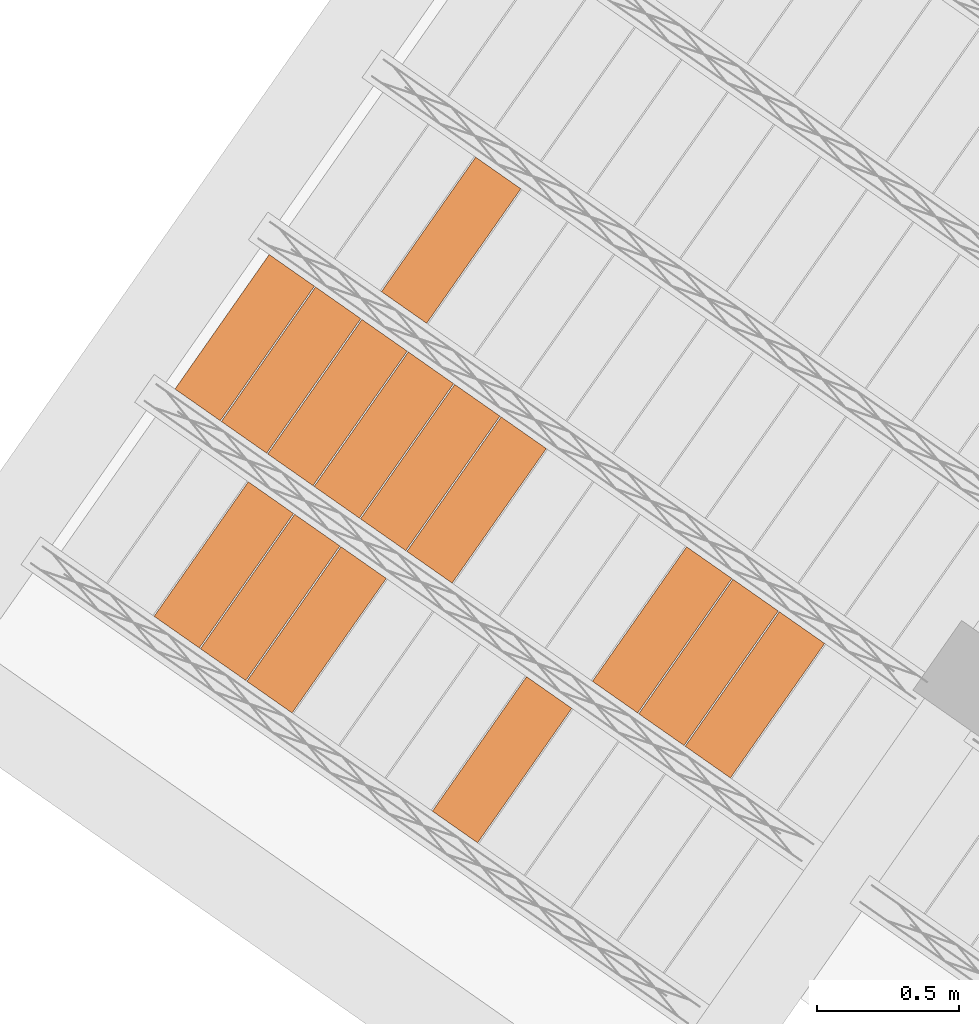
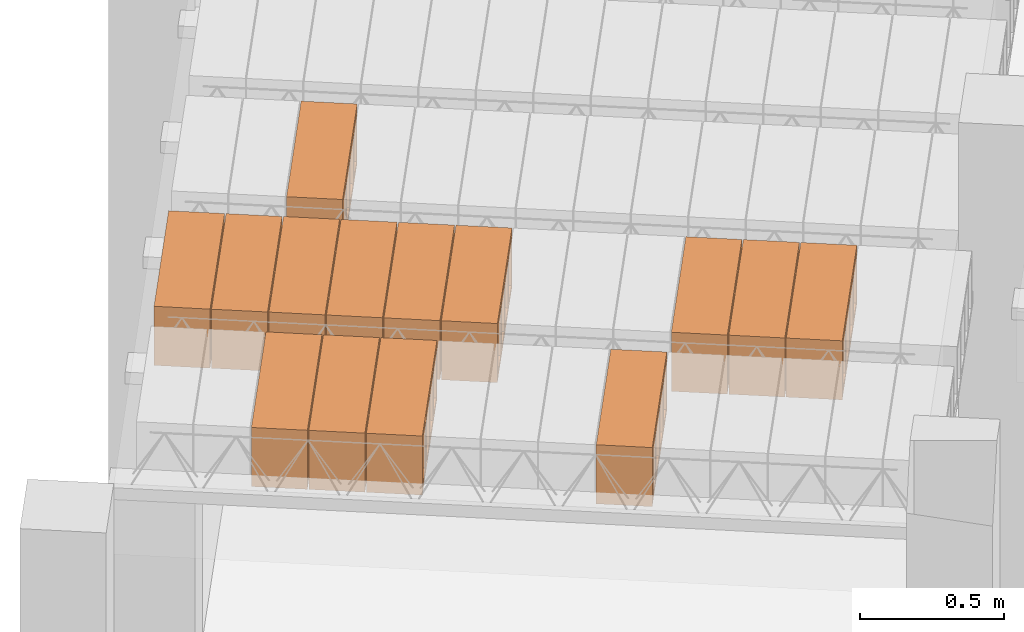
# One storey, part 57 of 80: 14 proxies.
"""IFC2X3 building model written with IfcOpenShell, lengths in metres."""

from ifc_helpers import new_model, entity, si_unit, converted_unit, derived_unit, direction, frame, origin, place, context, subcontext, project, spatial, polyline, outline, extrude, type_object, element, save


model = new_model("IFC2X3")

# Units and contexts
model_context = context("Model", 3, precision=1e-05, world=origin(), true_north=direction((6.123031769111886e-17, 1.0)))
body_context = subcontext(model_context, "Body", "Model", "MODEL_VIEW")
ifc_project = project(units=[si_unit("LENGTHUNIT", "METRE"), si_unit("AREAUNIT", "SQUARE_METRE"), si_unit("VOLUMEUNIT", "CUBIC_METRE"), converted_unit("PLANEANGLEUNIT", "DEGREE", entity("IfcPlaneAngleMeasure", 0.017453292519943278), si_unit("PLANEANGLEUNIT", "RADIAN"), dimensions=[0, 0, 0, 0, 0, 0, 0]), si_unit("MASSUNIT", "GRAM", prefix="KILO"), derived_unit("MASSDENSITYUNIT", [(si_unit("MASSUNIT", "GRAM", prefix="KILO"), 1), (si_unit("LENGTHUNIT", "METRE"), -3)]), derived_unit("IONCONCENTRATIONUNIT", [(si_unit("MASSUNIT", "GRAM", prefix="KILO"), 1), (si_unit("LENGTHUNIT", "METRE"), -3)]), derived_unit("MOMENTOFINERTIAUNIT", [(si_unit("LENGTHUNIT", "METRE"), 4)]), si_unit("TIMEUNIT", "SECOND"), si_unit("FREQUENCYUNIT", "HERTZ"), si_unit("THERMODYNAMICTEMPERATUREUNIT", "DEGREE_CELSIUS"), derived_unit("THERMALTRANSMITTANCEUNIT", [(si_unit("MASSUNIT", "GRAM", prefix="KILO"), 1), (si_unit("THERMODYNAMICTEMPERATUREUNIT", "KELVIN"), -1), (si_unit("TIMEUNIT", "SECOND"), -3)]), derived_unit("THERMALCONDUCTANCEUNIT", [(si_unit("MASSUNIT", "GRAM", prefix="KILO"), 1), (si_unit("THERMODYNAMICTEMPERATUREUNIT", "KELVIN"), -1), (si_unit("TIMEUNIT", "SECOND"), -3), (si_unit("LENGTHUNIT", "METRE"), 1)]), derived_unit("VOLUMETRICFLOWRATEUNIT", [(si_unit("LENGTHUNIT", "METRE", prefix="DECI"), 3), (si_unit("TIMEUNIT", "SECOND"), -1)]), derived_unit("MASSFLOWRATEUNIT", [(si_unit("MASSUNIT", "GRAM", prefix="KILO"), 1), (si_unit("TIMEUNIT", "SECOND"), -1)]), derived_unit("ROTATIONALFREQUENCYUNIT", [(si_unit("TIMEUNIT", "SECOND"), -1)]), si_unit("ELECTRICCURRENTUNIT", "AMPERE"), si_unit("ELECTRICVOLTAGEUNIT", "VOLT"), si_unit("POWERUNIT", "WATT"), si_unit("FORCEUNIT", "NEWTON", prefix="KILO"), si_unit("ILLUMINANCEUNIT", "LUX"), si_unit("LUMINOUSFLUXUNIT", "LUMEN"), si_unit("LUMINOUSINTENSITYUNIT", "CANDELA"), si_unit("ENERGYUNIT", "JOULE"), derived_unit("USERDEFINED", [(si_unit("MASSUNIT", "GRAM", prefix="KILO"), -1), (si_unit("LENGTHUNIT", "METRE"), -2), (si_unit("TIMEUNIT", "SECOND"), 3), (si_unit("LUMINOUSFLUXUNIT", "LUMEN"), 1)]), derived_unit("USERDEFINED", [(si_unit("MASSUNIT", "GRAM", prefix="KILO"), 1), (si_unit("TIMEUNIT", "SECOND"), -3), (si_unit("LENGTHUNIT", "METRE"), 3), (si_unit("ELECTRICCURRENTUNIT", "AMPERE"), -2)]), derived_unit("SOUNDPOWERUNIT", [(si_unit("MASSUNIT", "GRAM", prefix="KILO"), 1), (si_unit("TIMEUNIT", "SECOND"), -3), (si_unit("LENGTHUNIT", "METRE"), 2)]), derived_unit("SOUNDPRESSUREUNIT", [(si_unit("MASSUNIT", "GRAM", prefix="KILO"), 1), (si_unit("LENGTHUNIT", "METRE"), -1), (si_unit("TIMEUNIT", "SECOND"), -2)]), derived_unit("LINEARVELOCITYUNIT", [(si_unit("LENGTHUNIT", "METRE"), 1), (si_unit("TIMEUNIT", "SECOND"), -1)]), si_unit("PRESSUREUNIT", "PASCAL"), derived_unit("USERDEFINED", [(si_unit("MASSUNIT", "GRAM", prefix="KILO"), 1), (si_unit("LENGTHUNIT", "METRE"), -2), (si_unit("TIMEUNIT", "SECOND"), -2)]), derived_unit("LINEARFORCEUNIT", [(si_unit("MASSUNIT", "GRAM", prefix="KILO"), 1), (si_unit("TIMEUNIT", "SECOND"), -2)]), derived_unit("PLANARFORCEUNIT", [(si_unit("MASSUNIT", "GRAM", prefix="KILO"), 1), (si_unit("LENGTHUNIT", "METRE"), -1), (si_unit("TIMEUNIT", "SECOND"), -2)]), derived_unit("SPECIFICHEATCAPACITYUNIT", [(si_unit("THERMODYNAMICTEMPERATUREUNIT", "KELVIN"), -1), (si_unit("LENGTHUNIT", "METRE"), 2), (si_unit("TIMEUNIT", "SECOND"), -2)]), derived_unit("HEATFLUXDENSITYUNIT", [(si_unit("MASSUNIT", "GRAM", prefix="KILO"), 1), (si_unit("TIMEUNIT", "SECOND"), -3)]), derived_unit("HEATINGVALUEUNIT", [(si_unit("LENGTHUNIT", "METRE"), 2), (si_unit("TIMEUNIT", "SECOND"), -2)]), derived_unit("VAPORPERMEABILITYUNIT", [(si_unit("LENGTHUNIT", "METRE"), -1), (si_unit("TIMEUNIT", "SECOND"), 1)]), derived_unit("DYNAMICVISCOSITYUNIT", [(si_unit("MASSUNIT", "GRAM", prefix="KILO"), 1), (si_unit("TIMEUNIT", "SECOND"), -1), (si_unit("LENGTHUNIT", "METRE"), -1)]), derived_unit("THERMALEXPANSIONCOEFFICIENTUNIT", [(si_unit("THERMODYNAMICTEMPERATUREUNIT", "KELVIN"), -1)]), derived_unit("MODULUSOFELASTICITYUNIT", [(si_unit("MASSUNIT", "GRAM", prefix="KILO"), 1), (si_unit("LENGTHUNIT", "METRE"), -1), (si_unit("TIMEUNIT", "SECOND"), -2)]), derived_unit("ISOTHERMALMOISTURECAPACITYUNIT", [(si_unit("MASSUNIT", "GRAM", prefix="KILO"), -1), (si_unit("LENGTHUNIT", "METRE"), 3)]), derived_unit("MOISTUREDIFFUSIVITYUNIT", [(si_unit("TIMEUNIT", "SECOND"), -1), (si_unit("LENGTHUNIT", "METRE"), 2)]), derived_unit("MASSPERLENGTHUNIT", [(si_unit("MASSUNIT", "GRAM", prefix="KILO"), 1), (si_unit("LENGTHUNIT", "METRE"), -1)]), derived_unit("THERMALRESISTANCEUNIT", [(si_unit("MASSUNIT", "GRAM", prefix="KILO"), -1), (si_unit("TIMEUNIT", "SECOND"), 3), (si_unit("THERMODYNAMICTEMPERATUREUNIT", "KELVIN"), 1)]), derived_unit("ACCELERATIONUNIT", [(si_unit("LENGTHUNIT", "METRE"), 1), (si_unit("TIMEUNIT", "SECOND"), -2)]), derived_unit("ANGULARVELOCITYUNIT", [(si_unit("TIMEUNIT", "SECOND"), -1), (si_unit("PLANEANGLEUNIT", "RADIAN"), 1)]), derived_unit("LINEARSTIFFNESSUNIT", [(si_unit("MASSUNIT", "GRAM", prefix="KILO"), 1), (si_unit("TIMEUNIT", "SECOND"), -2)]), derived_unit("WARPINGCONSTANTUNIT", [(si_unit("LENGTHUNIT", "METRE"), 6)]), derived_unit("LINEARMOMENTUNIT", [(si_unit("MASSUNIT", "GRAM", prefix="KILO"), 1), (si_unit("LENGTHUNIT", "METRE"), 1), (si_unit("TIMEUNIT", "SECOND"), -2)]), derived_unit("TORQUEUNIT", [(si_unit("MASSUNIT", "GRAM", prefix="KILO"), 1), (si_unit("LENGTHUNIT", "METRE"), 2), (si_unit("TIMEUNIT", "SECOND"), -2)])], contexts=[model_context])

# Site, building, storey
site_placement = place(None, origin())
site = spatial("IfcSite", under=ifc_project, at=site_placement, Name="Default", CompositionType="ELEMENT")
building_placement = place(site_placement, origin())
building = spatial("IfcBuilding", under=site, at=building_placement, CompositionType="ELEMENT")
storey_placement = place(building_placement, frame((0.0, 0.0, 95.94)))
storey = spatial("IfcBuildingStorey", under=building, at=storey_placement, Name="PB", CompositionType="ELEMENT", Elevation=95.94)

# Proxies
building_element_proxy_type_1 = type_object("IfcBuildingElementProxyType", Name="Bovedilla 1-6 (Paño 2)", PredefinedType="USERDEFINED")
proxy_1_placement = place(storey_placement, origin())
element("IfcBuildingElementProxy", 1, at=proxy_1_placement, inside=storey, type_object=building_element_proxy_type_1, Name="Bovedilla 1-6 (Paño 2)", ObjectType="FORM", context=body_context, shape_type="SweptSolid", body=[
    extrude(outline(polyline([(-0.29000000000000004, -0.12500000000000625), (0.29000000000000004, -0.12500000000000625), (0.29000000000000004, 0.12500000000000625), (-0.29000000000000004, 0.12500000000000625), (-0.29000000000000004, -0.12500000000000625)]), holes=[polyline([(0.26999999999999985, -0.10499999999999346), (0.15499999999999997, -0.10499999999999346), (0.15499999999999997, 0.10499999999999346), (0.26999999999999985, 0.10499999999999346), (0.26999999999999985, 0.042499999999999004), (0.26999999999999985, -0.10499999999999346)]), polyline([(0.009999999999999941, -0.10499999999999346), (0.009999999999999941, 0.10499999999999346), (0.13500000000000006, 0.10499999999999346), (0.13500000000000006, -0.10499999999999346), (0.009999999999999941, -0.10499999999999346)]), polyline([(-0.13500000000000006, 0.10499999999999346), (-0.009999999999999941, 0.10499999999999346), (-0.009999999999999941, -0.10499999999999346), (-0.13500000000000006, -0.10499999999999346), (-0.13500000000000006, 0.10499999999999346)]), polyline([(-0.26999999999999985, -0.10499999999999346), (-0.26999999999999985, 0.042499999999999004), (-0.26999999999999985, 0.10499999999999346), (-0.15499999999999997, 0.10499999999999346), (-0.15499999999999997, -0.10499999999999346), (-0.26999999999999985, -0.10499999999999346)])]), frame((0.404675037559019, 2.03645971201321, 2.945000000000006), z_axis=(0.8191520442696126, -0.5735764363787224, 0.0), x_axis=(-0.5735764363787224, -0.8191520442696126, 0.0)), (0.0, 0.0, 1.0), 0.19500000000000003),
])
building_element_proxy_type_2 = type_object("IfcBuildingElementProxyType", Name="Bovedilla 1-10 (Paño 2)", PredefinedType="USERDEFINED")
proxy_2_placement = place(storey_placement, origin())
element("IfcBuildingElementProxy", 2, at=proxy_2_placement, inside=storey, type_object=building_element_proxy_type_2, Name="Bovedilla 1-10 (Paño 2)", ObjectType="FORM", context=body_context, shape_type="SweptSolid", body=[
    extrude(outline(polyline([(-0.29000000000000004, -0.12500000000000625), (0.29000000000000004, -0.12500000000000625), (0.29000000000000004, 0.12500000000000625), (-0.29000000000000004, 0.12500000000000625), (-0.29000000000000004, -0.12500000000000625)]), holes=[polyline([(0.27000000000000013, -0.10499999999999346), (0.15499999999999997, -0.10499999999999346), (0.15499999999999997, 0.10499999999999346), (0.27000000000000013, 0.10499999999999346), (0.27000000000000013, 0.042499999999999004), (0.27000000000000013, -0.10499999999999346)]), polyline([(0.009999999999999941, -0.10499999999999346), (0.009999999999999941, 0.10499999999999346), (0.13500000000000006, 0.10499999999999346), (0.13500000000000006, -0.10499999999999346), (0.009999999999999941, -0.10499999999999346)]), polyline([(-0.13499999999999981, 0.10499999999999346), (-0.009999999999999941, 0.10499999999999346), (-0.009999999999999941, -0.10499999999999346), (-0.13499999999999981, -0.10499999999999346), (-0.13499999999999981, 0.10499999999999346)]), polyline([(-0.27000000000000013, -0.10499999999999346), (-0.27000000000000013, 0.042499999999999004), (-0.27000000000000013, 0.10499999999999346), (-0.15500000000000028, 0.10499999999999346), (-0.15500000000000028, -0.10499999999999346), (-0.27000000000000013, -0.10499999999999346)])]), frame((-0.2506465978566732, 2.495320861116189, 2.945000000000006), z_axis=(0.8191520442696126, -0.5735764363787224, 0.0), x_axis=(-0.5735764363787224, -0.8191520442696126, 0.0)), (0.0, 0.0, 1.0), 0.19500000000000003),
])
building_element_proxy_type_3 = type_object("IfcBuildingElementProxyType", Name="Bovedilla 1-11 (Paño 2)", PredefinedType="USERDEFINED")
proxy_3_placement = place(storey_placement, origin())
element("IfcBuildingElementProxy", 3, at=proxy_3_placement, inside=storey, type_object=building_element_proxy_type_3, Name="Bovedilla 1-11 (Paño 2)", ObjectType="FORM", context=body_context, shape_type="SweptSolid", body=[
    extrude(outline(polyline([(-0.29000000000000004, -0.12500000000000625), (0.29000000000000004, -0.12500000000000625), (0.29000000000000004, 0.12500000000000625), (-0.29000000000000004, 0.12500000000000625), (-0.29000000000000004, -0.12500000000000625)]), holes=[polyline([(0.27000000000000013, -0.10499999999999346), (0.15500000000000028, -0.10499999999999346), (0.15500000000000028, 0.10499999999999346), (0.27000000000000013, 0.10499999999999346), (0.27000000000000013, 0.042499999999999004), (0.27000000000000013, -0.10499999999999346)]), polyline([(0.009999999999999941, -0.10499999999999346), (0.009999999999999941, 0.10499999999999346), (0.1349999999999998, 0.10499999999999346), (0.1349999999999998, -0.10499999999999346), (0.009999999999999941, -0.10499999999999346)]), polyline([(-0.1349999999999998, 0.10499999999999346), (-0.009999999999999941, 0.10499999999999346), (-0.009999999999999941, -0.10499999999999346), (-0.1349999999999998, -0.10499999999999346), (-0.1349999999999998, 0.10499999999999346)]), polyline([(-0.27000000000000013, -0.10499999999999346), (-0.27000000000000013, 0.042499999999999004), (-0.27000000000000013, 0.10499999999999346), (-0.15500000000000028, 0.10499999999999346), (-0.15500000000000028, -0.10499999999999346), (-0.27000000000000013, -0.10499999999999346)])]), frame((-0.41447700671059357, 2.6100361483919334, 2.945000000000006), z_axis=(0.8191520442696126, -0.5735764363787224, 0.0), x_axis=(-0.5735764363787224, -0.8191520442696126, 0.0)), (0.0, 0.0, 1.0), 0.19500000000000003),
])
building_element_proxy_type_4 = type_object("IfcBuildingElementProxyType", Name="Bovedilla 1-12 (Paño 2)", PredefinedType="USERDEFINED")
proxy_4_placement = place(storey_placement, origin())
element("IfcBuildingElementProxy", 4, at=proxy_4_placement, inside=storey, type_object=building_element_proxy_type_4, Name="Bovedilla 1-12 (Paño 2)", ObjectType="FORM", context=body_context, shape_type="SweptSolid", body=[
    extrude(outline(polyline([(-0.29000000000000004, -0.12500000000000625), (0.29000000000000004, -0.12500000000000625), (0.29000000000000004, 0.12500000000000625), (-0.29000000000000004, 0.12500000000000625), (-0.29000000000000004, -0.12500000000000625)]), holes=[polyline([(0.27000000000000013, -0.10499999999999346), (0.15500000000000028, -0.10499999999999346), (0.15500000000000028, 0.10499999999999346), (0.27000000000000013, 0.10499999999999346), (0.27000000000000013, 0.042499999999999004), (0.27000000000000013, -0.10499999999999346)]), polyline([(0.009999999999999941, -0.10499999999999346), (0.009999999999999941, 0.10499999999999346), (0.1349999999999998, 0.10499999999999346), (0.1349999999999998, -0.10499999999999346), (0.009999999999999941, -0.10499999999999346)]), polyline([(-0.1349999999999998, 0.10499999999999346), (-0.009999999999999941, 0.10499999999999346), (-0.009999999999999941, -0.10499999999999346), (-0.1349999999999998, -0.10499999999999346), (-0.1349999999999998, 0.10499999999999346)]), polyline([(-0.27000000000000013, -0.10499999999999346), (-0.27000000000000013, 0.042499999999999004), (-0.27000000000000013, 0.10499999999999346), (-0.15500000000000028, 0.10499999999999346), (-0.15500000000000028, -0.10499999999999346), (-0.27000000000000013, -0.10499999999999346)])]), frame((-0.5783074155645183, 2.7247514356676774, 2.945000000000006), z_axis=(0.8191520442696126, -0.5735764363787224, 0.0), x_axis=(-0.5735764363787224, -0.8191520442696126, 0.0)), (0.0, 0.0, 1.0), 0.19500000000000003),
])
building_element_proxy_type_5 = type_object("IfcBuildingElementProxyType", Name="Bovedilla 2-3 (Paño 2)", PredefinedType="USERDEFINED")
proxy_5_placement = place(storey_placement, origin())
element("IfcBuildingElementProxy", 5, at=proxy_5_placement, inside=storey, type_object=building_element_proxy_type_5, Name="Bovedilla 2-3 (Paño 2)", ObjectType="FORM", context=body_context, shape_type="SweptSolid", body=[
    extrude(outline(polyline([(-0.29, -0.12500000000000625), (0.28999999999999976, -0.12500000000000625), (0.28999999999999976, 0.12500000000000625), (-0.29, 0.12500000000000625), (-0.29, -0.12500000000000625)]), holes=[polyline([(0.2699999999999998, -0.10499999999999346), (0.1549999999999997, -0.10499999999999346), (0.1549999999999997, 0.10499999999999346), (0.2699999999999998, 0.10499999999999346), (0.2699999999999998, 0.042499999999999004), (0.2699999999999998, -0.10499999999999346)]), polyline([(0.009999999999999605, -0.10499999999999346), (0.009999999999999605, 0.10499999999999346), (0.135, 0.10499999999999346), (0.135, -0.10499999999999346), (0.009999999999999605, -0.10499999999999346)]), polyline([(-0.1350000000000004, 0.10499999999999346), (-0.010000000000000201, 0.10499999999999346), (-0.010000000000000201, -0.10499999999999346), (-0.1350000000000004, -0.10499999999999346), (-0.1350000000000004, 0.10499999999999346)]), polyline([(-0.2700000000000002, -0.10499999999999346), (-0.2700000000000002, 0.042499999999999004), (-0.2700000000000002, 0.10499999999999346), (-0.1550000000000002, 0.10499999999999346), (-0.1550000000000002, -0.10499999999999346), (-0.2700000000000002, -0.10499999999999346)])]), frame((1.2976697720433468, 2.2657202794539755, 2.945000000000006), z_axis=(0.8191520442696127, -0.5735764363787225, 0.0), x_axis=(-0.5735764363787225, -0.8191520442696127, 0.0)), (0.0, 0.0, 1.0), 0.19499999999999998),
])
building_element_proxy_type_6 = type_object("IfcBuildingElementProxyType", Name="Bovedilla 2-4 (Paño 2)", PredefinedType="USERDEFINED")
proxy_6_placement = place(storey_placement, origin())
element("IfcBuildingElementProxy", 6, at=proxy_6_placement, inside=storey, type_object=building_element_proxy_type_6, Name="Bovedilla 2-4 (Paño 2)", ObjectType="FORM", context=body_context, shape_type="SweptSolid", body=[
    extrude(outline(polyline([(-0.29, -0.12500000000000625), (0.28999999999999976, -0.12500000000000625), (0.28999999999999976, 0.12500000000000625), (-0.29, 0.12500000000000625), (-0.29, -0.12500000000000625)]), holes=[polyline([(0.2699999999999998, -0.10499999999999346), (0.1549999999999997, -0.10499999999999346), (0.1549999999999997, 0.10499999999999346), (0.2699999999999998, 0.10499999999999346), (0.2699999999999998, 0.042499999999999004), (0.2699999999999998, -0.10499999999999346)]), polyline([(0.009999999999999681, -0.10499999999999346), (0.009999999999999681, 0.10499999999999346), (0.13499999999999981, 0.10499999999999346), (0.13499999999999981, -0.10499999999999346), (0.009999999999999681, -0.10499999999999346)]), polyline([(-0.1350000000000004, 0.10499999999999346), (-0.01000000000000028, 0.10499999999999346), (-0.01000000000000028, -0.10499999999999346), (-0.1350000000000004, -0.10499999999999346), (-0.1350000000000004, 0.10499999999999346)]), polyline([(-0.2700000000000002, -0.10499999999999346), (-0.2700000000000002, 0.042499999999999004), (-0.2700000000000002, 0.10499999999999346), (-0.1550000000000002, 0.10499999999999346), (-0.1550000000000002, -0.10499999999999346), (-0.2700000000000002, -0.10499999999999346)])]), frame((1.1338393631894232, 2.3804355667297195, 2.945000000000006), z_axis=(0.8191520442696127, -0.5735764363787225, 0.0), x_axis=(-0.5735764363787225, -0.8191520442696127, 0.0)), (0.0, 0.0, 1.0), 0.19499999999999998),
])
building_element_proxy_type_7 = type_object("IfcBuildingElementProxyType", Name="Bovedilla 2-5 (Paño 2)", PredefinedType="USERDEFINED")
proxy_7_placement = place(storey_placement, origin())
element("IfcBuildingElementProxy", 7, at=proxy_7_placement, inside=storey, type_object=building_element_proxy_type_7, Name="Bovedilla 2-5 (Paño 2)", ObjectType="FORM", context=body_context, shape_type="SweptSolid", body=[
    extrude(outline(polyline([(-0.29000000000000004, -0.12500000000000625), (0.29000000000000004, -0.12500000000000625), (0.29000000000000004, 0.12500000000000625), (-0.29000000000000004, 0.12500000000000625), (-0.29000000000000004, -0.12500000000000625)]), holes=[polyline([(0.27000000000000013, -0.10499999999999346), (0.15499999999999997, -0.10499999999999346), (0.15499999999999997, 0.10499999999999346), (0.27000000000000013, 0.10499999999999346), (0.27000000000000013, 0.042499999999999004), (0.27000000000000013, -0.10499999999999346)]), polyline([(0.00999999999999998, -0.10499999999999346), (0.00999999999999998, 0.10499999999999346), (0.13500000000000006, 0.10499999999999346), (0.13500000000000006, -0.10499999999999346), (0.00999999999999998, -0.10499999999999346)]), polyline([(-0.1349999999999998, 0.10499999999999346), (-0.00999999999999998, 0.10499999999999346), (-0.00999999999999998, -0.10499999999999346), (-0.1349999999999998, -0.10499999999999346), (-0.1349999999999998, 0.10499999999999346)]), polyline([(-0.27000000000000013, -0.10499999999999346), (-0.27000000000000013, 0.042499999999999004), (-0.27000000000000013, 0.10499999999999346), (-0.15500000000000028, 0.10499999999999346), (-0.15500000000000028, -0.10499999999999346), (-0.27000000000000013, -0.10499999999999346)])]), frame((0.9700089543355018, 2.495150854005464, 2.945000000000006), z_axis=(0.8191520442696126, -0.5735764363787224, 0.0), x_axis=(-0.5735764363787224, -0.8191520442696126, 0.0)), (0.0, 0.0, 1.0), 0.19500000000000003),
])
building_element_proxy_type_8 = type_object("IfcBuildingElementProxyType", Name="Bovedilla 2-9 (Paño 2)", PredefinedType="USERDEFINED")
proxy_8_placement = place(storey_placement, origin())
element("IfcBuildingElementProxy", 8, at=proxy_8_placement, inside=storey, type_object=building_element_proxy_type_8, Name="Bovedilla 2-9 (Paño 2)", ObjectType="FORM", context=body_context, shape_type="SweptSolid", body=[
    extrude(outline(polyline([(-0.29000000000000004, -0.12500000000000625), (0.29000000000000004, -0.12500000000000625), (0.29000000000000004, 0.12500000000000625), (-0.29000000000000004, 0.12500000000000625), (-0.29000000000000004, -0.12500000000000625)]), holes=[polyline([(0.27000000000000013, -0.10499999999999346), (0.15500000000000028, -0.10499999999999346), (0.15500000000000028, 0.10499999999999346), (0.27000000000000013, 0.10499999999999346), (0.27000000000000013, 0.042499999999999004), (0.27000000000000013, -0.10499999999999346)]), polyline([(0.009999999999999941, -0.10499999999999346), (0.009999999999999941, 0.10499999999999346), (0.13499999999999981, 0.10499999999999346), (0.13499999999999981, -0.10499999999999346), (0.009999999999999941, -0.10499999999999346)]), polyline([(-0.1349999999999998, 0.10499999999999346), (-0.009999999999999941, 0.10499999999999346), (-0.009999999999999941, -0.10499999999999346), (-0.1349999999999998, -0.10499999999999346), (-0.1349999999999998, 0.10499999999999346)]), polyline([(-0.27000000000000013, -0.10499999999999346), (-0.27000000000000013, 0.042499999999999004), (-0.27000000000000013, 0.10499999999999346), (-0.15500000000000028, 0.10499999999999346), (-0.15500000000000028, -0.10499999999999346), (-0.27000000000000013, -0.10499999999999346)])]), frame((0.31468731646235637, 2.954012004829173, 2.945000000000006), z_axis=(0.8191520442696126, -0.5735764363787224, 0.0), x_axis=(-0.5735764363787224, -0.8191520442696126, 0.0)), (0.0, 0.0, 1.0), 0.19500000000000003),
])
building_element_proxy_type_9 = type_object("IfcBuildingElementProxyType", Name="Bovedilla 2-10 (Paño 2)", PredefinedType="USERDEFINED")
proxy_9_placement = place(storey_placement, origin())
element("IfcBuildingElementProxy", 9, at=proxy_9_placement, inside=storey, type_object=building_element_proxy_type_9, Name="Bovedilla 2-10 (Paño 2)", ObjectType="FORM", context=body_context, shape_type="SweptSolid", body=[
    extrude(outline(polyline([(-0.29000000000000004, -0.12500000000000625), (0.29000000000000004, -0.12500000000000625), (0.29000000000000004, 0.12500000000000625), (-0.29000000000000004, 0.12500000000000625), (-0.29000000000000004, -0.12500000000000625)]), holes=[polyline([(0.27000000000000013, -0.10499999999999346), (0.15500000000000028, -0.10499999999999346), (0.15500000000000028, 0.10499999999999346), (0.27000000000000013, 0.10499999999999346), (0.27000000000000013, 0.042499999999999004), (0.27000000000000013, -0.10499999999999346)]), polyline([(0.009999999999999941, -0.10499999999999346), (0.009999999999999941, 0.10499999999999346), (0.13499999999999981, 0.10499999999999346), (0.13499999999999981, -0.10499999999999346), (0.009999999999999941, -0.10499999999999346)]), polyline([(-0.13499999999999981, 0.10499999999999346), (-0.009999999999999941, 0.10499999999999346), (-0.009999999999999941, -0.10499999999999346), (-0.13499999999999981, -0.10499999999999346), (-0.13499999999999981, 0.10499999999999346)]), polyline([(-0.27000000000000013, -0.10499999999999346), (-0.27000000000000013, 0.042499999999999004), (-0.27000000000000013, 0.10499999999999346), (-0.15500000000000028, 0.10499999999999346), (-0.15500000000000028, -0.10499999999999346), (-0.27000000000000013, -0.10499999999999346)])]), frame((0.15085690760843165, 3.068727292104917, 2.945000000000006), z_axis=(0.8191520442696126, -0.5735764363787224, 0.0), x_axis=(-0.5735764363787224, -0.8191520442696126, 0.0)), (0.0, 0.0, 1.0), 0.19500000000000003),
])
building_element_proxy_type_10 = type_object("IfcBuildingElementProxyType", Name="Bovedilla 2-11 (Paño 2)", PredefinedType="USERDEFINED")
proxy_10_placement = place(storey_placement, origin())
element("IfcBuildingElementProxy", 10, at=proxy_10_placement, inside=storey, type_object=building_element_proxy_type_10, Name="Bovedilla 2-11 (Paño 2)", ObjectType="FORM", context=body_context, shape_type="SweptSolid", body=[
    extrude(outline(polyline([(-0.29000000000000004, -0.12500000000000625), (0.29000000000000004, -0.12500000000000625), (0.29000000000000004, 0.12500000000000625), (-0.29000000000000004, 0.12500000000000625), (-0.29000000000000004, -0.12500000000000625)]), holes=[polyline([(0.27000000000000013, -0.10499999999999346), (0.15500000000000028, -0.10499999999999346), (0.15500000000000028, 0.10499999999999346), (0.27000000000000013, 0.10499999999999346), (0.27000000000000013, 0.042499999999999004), (0.27000000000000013, -0.10499999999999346)]), polyline([(0.009999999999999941, -0.10499999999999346), (0.009999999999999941, 0.10499999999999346), (0.13499999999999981, 0.10499999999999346), (0.13499999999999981, -0.10499999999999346), (0.009999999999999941, -0.10499999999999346)]), polyline([(-0.13499999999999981, 0.10499999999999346), (-0.00999999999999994, 0.10499999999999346), (-0.009999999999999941, -0.10499999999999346), (-0.13499999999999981, -0.10499999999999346), (-0.13499999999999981, 0.10499999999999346)]), polyline([(-0.27000000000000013, -0.10499999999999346), (-0.27000000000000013, 0.042499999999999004), (-0.27000000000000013, 0.10499999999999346), (-0.15500000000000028, 0.10499999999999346), (-0.15500000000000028, -0.10499999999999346), (-0.27000000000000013, -0.10499999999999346)])]), frame((-0.012973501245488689, 3.1834425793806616, 2.945000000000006), z_axis=(0.8191520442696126, -0.5735764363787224, 0.0), x_axis=(-0.5735764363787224, -0.8191520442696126, 0.0)), (0.0, 0.0, 1.0), 0.19500000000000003),
])
building_element_proxy_type_11 = type_object("IfcBuildingElementProxyType", Name="Bovedilla 2-12 (Paño 2)", PredefinedType="USERDEFINED")
proxy_11_placement = place(storey_placement, origin())
element("IfcBuildingElementProxy", 11, at=proxy_11_placement, inside=storey, type_object=building_element_proxy_type_11, Name="Bovedilla 2-12 (Paño 2)", ObjectType="FORM", context=body_context, shape_type="SweptSolid", body=[
    extrude(outline(polyline([(-0.29000000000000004, -0.12500000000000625), (0.29000000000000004, -0.12500000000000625), (0.29000000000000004, 0.12500000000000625), (-0.29000000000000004, 0.12500000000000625), (-0.29000000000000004, -0.12500000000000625)]), holes=[polyline([(0.27000000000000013, -0.10499999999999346), (0.15500000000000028, -0.10499999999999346), (0.15500000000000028, 0.10499999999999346), (0.27000000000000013, 0.10499999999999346), (0.27000000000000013, 0.042499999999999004), (0.27000000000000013, -0.10499999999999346)]), polyline([(0.009999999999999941, -0.10499999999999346), (0.009999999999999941, 0.10499999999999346), (0.13499999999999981, 0.10499999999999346), (0.13499999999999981, -0.10499999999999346), (0.009999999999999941, -0.10499999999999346)]), polyline([(-0.13499999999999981, 0.10499999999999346), (-0.009999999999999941, 0.10499999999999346), (-0.009999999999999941, -0.10499999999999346), (-0.13499999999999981, -0.10499999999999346), (-0.13499999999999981, 0.10499999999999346)]), polyline([(-0.27000000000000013, -0.10499999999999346), (-0.27000000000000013, 0.042499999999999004), (-0.27000000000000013, 0.10499999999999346), (-0.15500000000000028, 0.10499999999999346), (-0.15500000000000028, -0.10499999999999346), (-0.27000000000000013, -0.10499999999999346)])]), frame((-0.17680391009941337, 3.298157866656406, 2.945000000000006), z_axis=(0.8191520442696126, -0.5735764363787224, 0.0), x_axis=(-0.5735764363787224, -0.8191520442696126, 0.0)), (0.0, 0.0, 1.0), 0.19500000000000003),
])
building_element_proxy_type_12 = type_object("IfcBuildingElementProxyType", Name="Bovedilla 2-13 (Paño 2)", PredefinedType="USERDEFINED")
proxy_12_placement = place(storey_placement, origin())
element("IfcBuildingElementProxy", 12, at=proxy_12_placement, inside=storey, type_object=building_element_proxy_type_12, Name="Bovedilla 2-13 (Paño 2)", ObjectType="FORM", context=body_context, shape_type="SweptSolid", body=[
    extrude(outline(polyline([(-0.29000000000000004, -0.12500000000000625), (0.29000000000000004, -0.12500000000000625), (0.29000000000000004, 0.12500000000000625), (-0.29000000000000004, 0.12500000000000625), (-0.29000000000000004, -0.12500000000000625)]), holes=[polyline([(0.27000000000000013, -0.10499999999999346), (0.15500000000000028, -0.10499999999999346), (0.15500000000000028, 0.10499999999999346), (0.27000000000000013, 0.10499999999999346), (0.27000000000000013, 0.042499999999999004), (0.27000000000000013, -0.10499999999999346)]), polyline([(0.009999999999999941, -0.10499999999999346), (0.009999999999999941, 0.10499999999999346), (0.1349999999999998, 0.10499999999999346), (0.1349999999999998, -0.10499999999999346), (0.009999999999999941, -0.10499999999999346)]), polyline([(-0.13499999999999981, 0.10499999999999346), (-0.009999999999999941, 0.10499999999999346), (-0.009999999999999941, -0.10499999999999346), (-0.13499999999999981, -0.10499999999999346), (-0.13499999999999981, 0.10499999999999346)]), polyline([(-0.27000000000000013, -0.10499999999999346), (-0.27000000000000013, 0.042499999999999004), (-0.27000000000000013, 0.10499999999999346), (-0.15500000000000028, 0.10499999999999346), (-0.15500000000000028, -0.10499999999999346), (-0.27000000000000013, -0.10499999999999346)])]), frame((-0.34063431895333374, 3.41287315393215, 2.945000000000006), z_axis=(0.8191520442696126, -0.5735764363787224, 0.0), x_axis=(-0.5735764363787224, -0.8191520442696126, 0.0)), (0.0, 0.0, 1.0), 0.19500000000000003),
])
building_element_proxy_type_13 = type_object("IfcBuildingElementProxyType", Name="Bovedilla 2-14 (Paño 2)", PredefinedType="USERDEFINED")
proxy_13_placement = place(storey_placement, origin())
element("IfcBuildingElementProxy", 13, at=proxy_13_placement, inside=storey, type_object=building_element_proxy_type_13, Name="Bovedilla 2-14 (Paño 2)", ObjectType="FORM", context=body_context, shape_type="SweptSolid", body=[
    extrude(outline(polyline([(-0.29000000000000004, -0.12500000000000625), (0.29000000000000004, -0.12500000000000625), (0.29000000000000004, 0.12500000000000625), (-0.29000000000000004, 0.12500000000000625), (-0.29000000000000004, -0.12500000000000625)]), holes=[polyline([(0.27000000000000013, -0.10499999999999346), (0.15500000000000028, -0.10499999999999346), (0.15500000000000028, 0.10499999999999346), (0.27000000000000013, 0.10499999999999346), (0.27000000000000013, 0.042499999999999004), (0.27000000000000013, -0.10499999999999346)]), polyline([(0.009999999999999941, -0.10499999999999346), (0.009999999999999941, 0.10499999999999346), (0.1349999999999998, 0.10499999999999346), (0.1349999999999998, -0.10499999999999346), (0.009999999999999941, -0.10499999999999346)]), polyline([(-0.1349999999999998, 0.10499999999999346), (-0.009999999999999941, 0.10499999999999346), (-0.009999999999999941, -0.10499999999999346), (-0.1349999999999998, -0.10499999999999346), (-0.1349999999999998, 0.10499999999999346)]), polyline([(-0.27000000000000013, -0.10499999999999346), (-0.27000000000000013, 0.042499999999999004), (-0.27000000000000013, 0.10499999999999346), (-0.15500000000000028, 0.10499999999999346), (-0.15500000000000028, -0.10499999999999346), (-0.27000000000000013, -0.10499999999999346)])]), frame((-0.5044647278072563, 3.5275884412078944, 2.945000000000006), z_axis=(0.8191520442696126, -0.5735764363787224, 0.0), x_axis=(-0.5735764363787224, -0.8191520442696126, 0.0)), (0.0, 0.0, 1.0), 0.19500000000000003),
])
building_element_proxy_type_14 = type_object("IfcBuildingElementProxyType", Name="Bovedilla 3-12 (Paño 2)", PredefinedType="USERDEFINED")
proxy_14_placement = place(storey_placement, origin())
element("IfcBuildingElementProxy", 14, at=proxy_14_placement, inside=storey, type_object=building_element_proxy_type_14, Name="Bovedilla 3-12 (Paño 2)", ObjectType="FORM", context=body_context, shape_type="SweptSolid", body=[
    extrude(outline(polyline([(-0.29000000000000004, -0.12500000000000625), (0.29000000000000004, -0.12500000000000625), (0.29000000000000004, 0.12500000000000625), (-0.29000000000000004, 0.12500000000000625), (-0.29000000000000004, -0.12500000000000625)]), holes=[polyline([(0.27000000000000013, -0.10499999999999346), (0.15500000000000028, -0.10499999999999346), (0.15500000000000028, 0.10499999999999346), (0.27000000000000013, 0.10499999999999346), (0.27000000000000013, 0.042499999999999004), (0.27000000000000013, -0.10499999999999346)]), polyline([(0.009999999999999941, -0.10499999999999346), (0.009999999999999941, 0.10499999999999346), (0.13499999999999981, 0.10499999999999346), (0.13499999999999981, -0.10499999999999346), (0.009999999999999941, -0.10499999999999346)]), polyline([(-0.13499999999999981, 0.10499999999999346), (-0.009999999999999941, 0.10499999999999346), (-0.009999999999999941, -0.10499999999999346), (-0.13499999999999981, -0.10499999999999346), (-0.13499999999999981, 0.10499999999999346)]), polyline([(-0.27000000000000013, -0.10499999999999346), (-0.27000000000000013, 0.042499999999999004), (-0.27000000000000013, 0.10499999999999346), (-0.15500000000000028, 0.10499999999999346), (-0.15500000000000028, -0.10499999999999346), (-0.27000000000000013, -0.10499999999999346)])]), frame((0.22469959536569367, 3.871564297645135, 2.945000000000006), z_axis=(0.8191520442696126, -0.5735764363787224, 0.0), x_axis=(-0.5735764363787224, -0.8191520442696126, 0.0)), (0.0, 0.0, 1.0), 0.19500000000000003),
])

save(model, "model.ifc")
